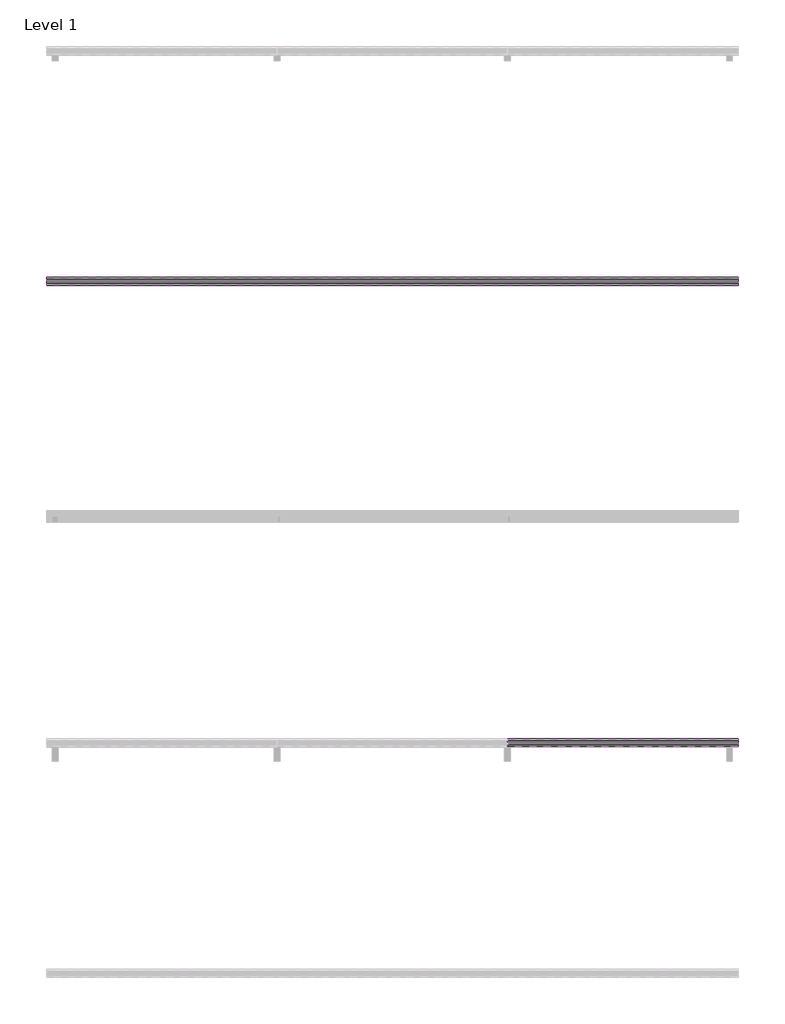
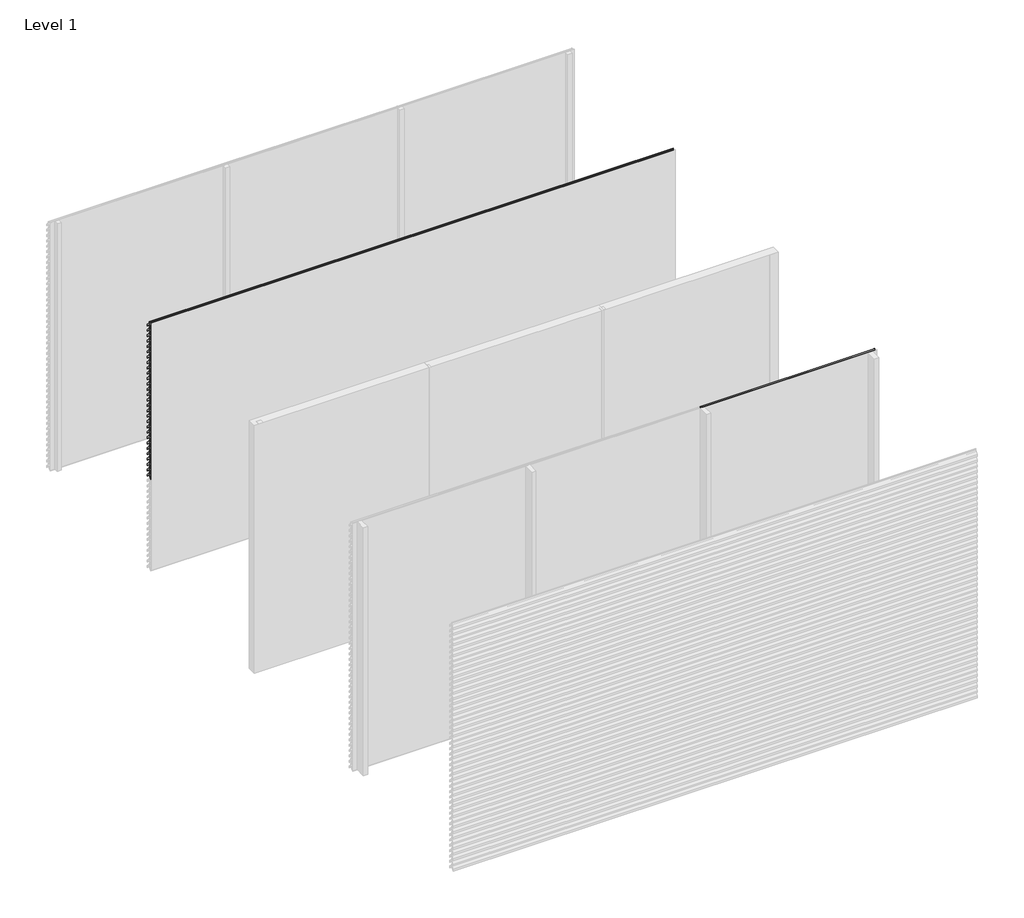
# One storey, part 3 of 9: 84 proxies.
"""IFC4 building model written with IfcOpenShell, lengths in millimetres."""

from ifc_helpers import new_model, si_unit, frame, origin, place, context, project, spatial, polyline, outline, extrude, element, save

model = new_model("IFC4")

# Units and contexts
model_context = context("Model", 3, world=origin())
ifc_project = project(units=[si_unit("LENGTHUNIT", "METRE", prefix="MILLI")], contexts=[model_context])

# Site, building, storey
site = spatial("IfcSite", under=ifc_project)
building = spatial("IfcBuilding", under=site)
storey = spatial("IfcBuildingStorey", under=building, Name="Level 1", Elevation=0.0)

# Proxies
placement = place(None, origin())
element("IfcBuildingElementProxy", 1, Name="Wall Sweeps", at=placement, inside=storey, context=model_context, shape_type="SweptSolid", body=[
    extrude(outline(polyline([(-13926.0, 2942.0), (-13926.0, 2919.0), (-13961.5, 2954.5), (-13997.0, 2919.0), (-13997.0, 2942.0), (-13962.5, 2976.5), (-13962.5, 2990.0), (-13960.5, 2990.0), (-13960.5, 2976.5), (-13926.0, 2942.0)])), frame((0.0, 0.0, 0.0), z_axis=(1.0, 0.0, 0.0), x_axis=(0.0, 1.0, 0.0)), (0.0, 0.0, 1.0), 6000.0),
])
element("IfcBuildingElementProxy", 2, Name="Wall Sweeps", at=placement, inside=storey, context=model_context, shape_type="SweptSolid", body=[
    extrude(outline(polyline([(-13926.0, 2877.0), (-13926.0, 2854.0), (-13961.5, 2889.5), (-13997.0, 2854.0), (-13997.0, 2877.0), (-13962.5, 2911.5), (-13962.5, 2925.0), (-13960.5, 2925.0), (-13960.5, 2911.5), (-13926.0, 2877.0)])), frame((0.0, 0.0, 0.0), z_axis=(1.0, 0.0, 0.0), x_axis=(0.0, 1.0, 0.0)), (0.0, 0.0, 1.0), 6000.0),
])
element("IfcBuildingElementProxy", 3, Name="Wall Sweeps", at=placement, inside=storey, context=model_context, shape_type="SweptSolid", body=[
    extrude(outline(polyline([(-13926.0, 2812.0), (-13926.0, 2789.0), (-13961.5, 2824.5), (-13997.0, 2789.0), (-13997.0, 2812.0), (-13962.5, 2846.5), (-13962.5, 2860.0), (-13960.5, 2860.0), (-13960.5, 2846.5), (-13926.0, 2812.0)])), frame((0.0, 0.0, 0.0), z_axis=(1.0, 0.0, 0.0), x_axis=(0.0, 1.0, 0.0)), (0.0, 0.0, 1.0), 6000.0),
])
element("IfcBuildingElementProxy", 4, Name="Wall Sweeps", at=placement, inside=storey, context=model_context, shape_type="SweptSolid", body=[
    extrude(outline(polyline([(-13926.0, 2747.0), (-13926.0, 2724.0), (-13961.5, 2759.5), (-13997.0, 2724.0), (-13997.0, 2747.0), (-13962.5, 2781.5), (-13962.5, 2795.0), (-13960.5, 2795.0), (-13960.5, 2781.5), (-13926.0, 2747.0)])), frame((0.0, 0.0, 0.0), z_axis=(1.0, 0.0, 0.0), x_axis=(0.0, 1.0, 0.0)), (0.0, 0.0, 1.0), 6000.0),
])
element("IfcBuildingElementProxy", 5, Name="Wall Sweeps", at=placement, inside=storey, context=model_context, shape_type="SweptSolid", body=[
    extrude(outline(polyline([(-13926.0, 2682.0), (-13926.0, 2659.0), (-13961.5, 2694.5), (-13997.0, 2659.0), (-13997.0, 2682.0), (-13962.5, 2716.5), (-13962.5, 2730.0), (-13960.5, 2730.0), (-13960.5, 2716.5), (-13926.0, 2682.0)])), frame((0.0, 0.0, 0.0), z_axis=(1.0, 0.0, 0.0), x_axis=(0.0, 1.0, 0.0)), (0.0, 0.0, 1.0), 6000.0),
])
element("IfcBuildingElementProxy", 6, Name="Wall Sweeps", at=placement, inside=storey, context=model_context, shape_type="SweptSolid", body=[
    extrude(outline(polyline([(-13926.0, 2617.0), (-13926.0, 2594.0), (-13961.5, 2629.5), (-13997.0, 2594.0), (-13997.0, 2617.0), (-13962.5, 2651.5), (-13962.5, 2665.0), (-13960.5, 2665.0), (-13960.5, 2651.5), (-13926.0, 2617.0)])), frame((0.0, 0.0, 0.0), z_axis=(1.0, 0.0, 0.0), x_axis=(0.0, 1.0, 0.0)), (0.0, 0.0, 1.0), 6000.0),
])
element("IfcBuildingElementProxy", 7, Name="Wall Sweeps", at=placement, inside=storey, context=model_context, shape_type="SweptSolid", body=[
    extrude(outline(polyline([(-13926.0, 2552.0), (-13926.0, 2529.0), (-13961.5, 2564.5), (-13997.0, 2529.0), (-13997.0, 2552.0), (-13962.5, 2586.5), (-13962.5, 2600.0), (-13960.5, 2600.0), (-13960.5, 2586.5), (-13926.0, 2552.0)])), frame((0.0, 0.0, 0.0), z_axis=(1.0, 0.0, 0.0), x_axis=(0.0, 1.0, 0.0)), (0.0, 0.0, 1.0), 6000.0),
])
element("IfcBuildingElementProxy", 8, Name="Wall Sweeps", at=placement, inside=storey, context=model_context, shape_type="SweptSolid", body=[
    extrude(outline(polyline([(-13926.0, 2487.0), (-13926.0, 2464.0), (-13961.5, 2499.5), (-13997.0, 2464.0), (-13997.0, 2487.0), (-13962.5, 2521.5), (-13962.5, 2535.0), (-13960.5, 2535.0), (-13960.5, 2521.5), (-13926.0, 2487.0)])), frame((0.0, 0.0, 0.0), z_axis=(1.0, 0.0, 0.0), x_axis=(0.0, 1.0, 0.0)), (0.0, 0.0, 1.0), 6000.0),
])
element("IfcBuildingElementProxy", 9, Name="Wall Sweeps", at=placement, inside=storey, context=model_context, shape_type="SweptSolid", body=[
    extrude(outline(polyline([(-13926.0, 2422.0), (-13926.0, 2399.0), (-13961.5, 2434.5), (-13997.0, 2399.0), (-13997.0, 2422.0), (-13962.5, 2456.5), (-13962.5, 2470.0), (-13960.5, 2470.0), (-13960.5, 2456.5), (-13926.0, 2422.0)])), frame((0.0, 0.0, 0.0), z_axis=(1.0, 0.0, 0.0), x_axis=(0.0, 1.0, 0.0)), (0.0, 0.0, 1.0), 6000.0),
])
element("IfcBuildingElementProxy", 10, Name="Wall Sweeps", at=placement, inside=storey, context=model_context, shape_type="SweptSolid", body=[
    extrude(outline(polyline([(-13926.0, 2357.0), (-13926.0, 2334.0), (-13961.5, 2369.5), (-13997.0, 2334.0), (-13997.0, 2357.0), (-13962.5, 2391.5), (-13962.5, 2405.0), (-13960.5, 2405.0), (-13960.5, 2391.5), (-13926.0, 2357.0)])), frame((0.0, 0.0, 0.0), z_axis=(1.0, 0.0, 0.0), x_axis=(0.0, 1.0, 0.0)), (0.0, 0.0, 1.0), 6000.0),
])
element("IfcBuildingElementProxy", 11, Name="Wall Sweeps", at=placement, inside=storey, context=model_context, shape_type="SweptSolid", body=[
    extrude(outline(polyline([(-13926.0, 2292.0), (-13926.0, 2269.0), (-13961.5, 2304.5), (-13997.0, 2269.0), (-13997.0, 2292.0), (-13962.5, 2326.5), (-13962.5, 2340.0), (-13960.5, 2340.0), (-13960.5, 2326.5), (-13926.0, 2292.0)])), frame((0.0, 0.0, 0.0), z_axis=(1.0, 0.0, 0.0), x_axis=(0.0, 1.0, 0.0)), (0.0, 0.0, 1.0), 6000.0),
])
element("IfcBuildingElementProxy", 12, Name="Wall Sweeps", at=placement, inside=storey, context=model_context, shape_type="SweptSolid", body=[
    extrude(outline(polyline([(-13926.0, 2227.0), (-13926.0, 2204.0), (-13961.5, 2239.5), (-13997.0, 2204.0), (-13997.0, 2227.0), (-13962.5, 2261.5), (-13962.5, 2275.0), (-13960.5, 2275.0), (-13960.5, 2261.5), (-13926.0, 2227.0)])), frame((0.0, 0.0, 0.0), z_axis=(1.0, 0.0, 0.0), x_axis=(0.0, 1.0, 0.0)), (0.0, 0.0, 1.0), 6000.0),
])
element("IfcBuildingElementProxy", 13, Name="Wall Sweeps", at=placement, inside=storey, context=model_context, shape_type="SweptSolid", body=[
    extrude(outline(polyline([(-13926.0, 2162.0), (-13926.0, 2139.0), (-13961.5, 2174.5), (-13997.0, 2139.0), (-13997.0, 2162.0), (-13962.5, 2196.5), (-13962.5, 2210.0), (-13960.5, 2210.0), (-13960.5, 2196.5), (-13926.0, 2162.0)])), frame((0.0, 0.0, 0.0), z_axis=(1.0, 0.0, 0.0), x_axis=(0.0, 1.0, 0.0)), (0.0, 0.0, 1.0), 6000.0),
])
element("IfcBuildingElementProxy", 14, Name="Wall Sweeps", at=placement, inside=storey, context=model_context, shape_type="SweptSolid", body=[
    extrude(outline(polyline([(-13926.0, 2097.0), (-13926.0, 2074.0), (-13961.5, 2109.5), (-13997.0, 2074.0), (-13997.0, 2097.0), (-13962.5, 2131.5), (-13962.5, 2145.0), (-13960.5, 2145.0), (-13960.5, 2131.5), (-13926.0, 2097.0)])), frame((0.0, 0.0, 0.0), z_axis=(1.0, 0.0, 0.0), x_axis=(0.0, 1.0, 0.0)), (0.0, 0.0, 1.0), 6000.0),
])
element("IfcBuildingElementProxy", 15, Name="Wall Sweeps", at=placement, inside=storey, context=model_context, shape_type="SweptSolid", body=[
    extrude(outline(polyline([(-13926.0, 2032.0), (-13926.0, 2009.0), (-13961.5, 2044.5), (-13997.0, 2009.0), (-13997.0, 2032.0), (-13962.5, 2066.5), (-13962.5, 2080.0), (-13960.5, 2080.0), (-13960.5, 2066.5), (-13926.0, 2032.0)])), frame((0.0, 0.0, 0.0), z_axis=(1.0, 0.0, 0.0), x_axis=(0.0, 1.0, 0.0)), (0.0, 0.0, 1.0), 6000.0),
])
element("IfcBuildingElementProxy", 16, Name="Wall Sweeps", at=placement, inside=storey, context=model_context, shape_type="SweptSolid", body=[
    extrude(outline(polyline([(-13926.0, 1967.0), (-13926.0, 1944.0), (-13961.5, 1979.5), (-13997.0, 1944.0), (-13997.0, 1967.0), (-13962.5, 2001.5), (-13962.5, 2015.0), (-13960.5, 2015.0), (-13960.5, 2001.5), (-13926.0, 1967.0)])), frame((0.0, 0.0, 0.0), z_axis=(1.0, 0.0, 0.0), x_axis=(0.0, 1.0, 0.0)), (0.0, 0.0, 1.0), 6000.0),
])
element("IfcBuildingElementProxy", 17, Name="Wall Sweeps", at=placement, inside=storey, context=model_context, shape_type="SweptSolid", body=[
    extrude(outline(polyline([(-13926.0, 1902.0), (-13926.0, 1879.0), (-13961.5, 1914.5), (-13997.0, 1879.0), (-13997.0, 1902.0), (-13962.5, 1936.5), (-13962.5, 1950.0), (-13960.5, 1950.0), (-13960.5, 1936.5), (-13926.0, 1902.0)])), frame((0.0, 0.0, 0.0), z_axis=(1.0, 0.0, 0.0), x_axis=(0.0, 1.0, 0.0)), (0.0, 0.0, 1.0), 6000.0),
])
element("IfcBuildingElementProxy", 18, Name="Wall Sweeps", at=placement, inside=storey, context=model_context, shape_type="SweptSolid", body=[
    extrude(outline(polyline([(-13926.0, 1837.0), (-13926.0, 1814.0), (-13961.5, 1849.5), (-13997.0, 1814.0), (-13997.0, 1837.0), (-13962.5, 1871.5), (-13962.5, 1885.0), (-13960.5, 1885.0), (-13960.5, 1871.5), (-13926.0, 1837.0)])), frame((0.0, 0.0, 0.0), z_axis=(1.0, 0.0, 0.0), x_axis=(0.0, 1.0, 0.0)), (0.0, 0.0, 1.0), 6000.0),
])
element("IfcBuildingElementProxy", 19, Name="Wall Sweeps", at=placement, inside=storey, context=model_context, shape_type="SweptSolid", body=[
    extrude(outline(polyline([(-13926.0, 1772.0), (-13926.0, 1749.0), (-13961.5, 1784.5), (-13997.0, 1749.0), (-13997.0, 1772.0), (-13962.5, 1806.5), (-13962.5, 1820.0), (-13960.5, 1820.0), (-13960.5, 1806.5), (-13926.0, 1772.0)])), frame((0.0, 0.0, 0.0), z_axis=(1.0, 0.0, 0.0), x_axis=(0.0, 1.0, 0.0)), (0.0, 0.0, 1.0), 6000.0),
])
element("IfcBuildingElementProxy", 20, Name="Wall Sweeps", at=placement, inside=storey, context=model_context, shape_type="SweptSolid", body=[
    extrude(outline(polyline([(-13926.0, 1707.0), (-13926.0, 1684.0), (-13961.5, 1719.5), (-13997.0, 1684.0), (-13997.0, 1707.0), (-13962.5, 1741.5), (-13962.5, 1755.0), (-13960.5, 1755.0), (-13960.5, 1741.5), (-13926.0, 1707.0)])), frame((0.0, 0.0, 0.0), z_axis=(1.0, 0.0, 0.0), x_axis=(0.0, 1.0, 0.0)), (0.0, 0.0, 1.0), 6000.0),
])
element("IfcBuildingElementProxy", 21, Name="Wall Sweeps", at=placement, inside=storey, context=model_context, shape_type="SweptSolid", body=[
    extrude(outline(polyline([(-13926.0, 1642.0), (-13926.0, 1619.0), (-13961.5, 1654.5), (-13997.0, 1619.0), (-13997.0, 1642.0), (-13962.5, 1676.5), (-13962.5, 1690.0), (-13960.5, 1690.0), (-13960.5, 1676.5), (-13926.0, 1642.0)])), frame((0.0, 0.0, 0.0), z_axis=(1.0, 0.0, 0.0), x_axis=(0.0, 1.0, 0.0)), (0.0, 0.0, 1.0), 6000.0),
])
element("IfcBuildingElementProxy", 22, Name="Wall Sweeps", at=placement, inside=storey, context=model_context, shape_type="SweptSolid", body=[
    extrude(outline(polyline([(-13926.0, 1577.0), (-13926.0, 1554.0), (-13961.5, 1589.5), (-13997.0, 1554.0), (-13997.0, 1577.0), (-13962.5, 1611.5), (-13962.5, 1625.0), (-13960.5, 1625.0), (-13960.5, 1611.5), (-13926.0, 1577.0)])), frame((0.0, 0.0, 0.0), z_axis=(1.0, 0.0, 0.0), x_axis=(0.0, 1.0, 0.0)), (0.0, 0.0, 1.0), 6000.0),
])
element("IfcBuildingElementProxy", 23, Name="Wall Sweeps", at=placement, inside=storey, context=model_context, shape_type="SweptSolid", body=[
    extrude(outline(polyline([(-13926.0, 1512.0), (-13926.0, 1489.0), (-13961.5, 1524.5), (-13997.0, 1489.0), (-13997.0, 1512.0), (-13962.5, 1546.5), (-13962.5, 1560.0), (-13960.5, 1560.0), (-13960.5, 1546.5), (-13926.0, 1512.0)])), frame((0.0, 0.0, 0.0), z_axis=(1.0, 0.0, 0.0), x_axis=(0.0, 1.0, 0.0)), (0.0, 0.0, 1.0), 6000.0),
])
element("IfcBuildingElementProxy", 24, Name="Wall Sweeps", at=placement, inside=storey, context=model_context, shape_type="SweptSolid", body=[
    extrude(outline(polyline([(-13926.0, 1447.0), (-13926.0, 1424.0), (-13961.5, 1459.5), (-13997.0, 1424.0), (-13997.0, 1447.0), (-13962.5, 1481.5), (-13962.5, 1495.0), (-13960.5, 1495.0), (-13960.5, 1481.5), (-13926.0, 1447.0)])), frame((0.0, 0.0, 0.0), z_axis=(1.0, 0.0, 0.0), x_axis=(0.0, 1.0, 0.0)), (0.0, 0.0, 1.0), 6000.0),
])
element("IfcBuildingElementProxy", 25, Name="Wall Sweeps", at=placement, inside=storey, context=model_context, shape_type="SweptSolid", body=[
    extrude(outline(polyline([(-13926.0, 1382.0), (-13926.0, 1359.0), (-13961.5, 1394.5), (-13997.0, 1359.0), (-13997.0, 1382.0), (-13962.5, 1416.5), (-13962.5, 1430.0), (-13960.5, 1430.0), (-13960.5, 1416.5), (-13926.0, 1382.0)])), frame((0.0, 0.0, 0.0), z_axis=(1.0, 0.0, 0.0), x_axis=(0.0, 1.0, 0.0)), (0.0, 0.0, 1.0), 6000.0),
])
element("IfcBuildingElementProxy", 26, Name="Wall Sweeps", at=placement, inside=storey, context=model_context, shape_type="SweptSolid", body=[
    extrude(outline(polyline([(-13926.0, 1317.0), (-13926.0, 1294.0), (-13961.5, 1329.5), (-13997.0, 1294.0), (-13997.0, 1317.0), (-13962.5, 1351.5), (-13962.5, 1365.0), (-13960.5, 1365.0), (-13960.5, 1351.5), (-13926.0, 1317.0)])), frame((0.0, 0.0, 0.0), z_axis=(1.0, 0.0, 0.0), x_axis=(0.0, 1.0, 0.0)), (0.0, 0.0, 1.0), 6000.0),
])
element("IfcBuildingElementProxy", 27, Name="Wall Sweeps", at=placement, inside=storey, context=model_context, shape_type="SweptSolid", body=[
    extrude(outline(polyline([(-13926.0, 1252.0), (-13926.0, 1229.0), (-13961.5, 1264.5), (-13997.0, 1229.0), (-13997.0, 1252.0), (-13962.5, 1286.5), (-13962.5, 1300.0), (-13960.5, 1300.0), (-13960.5, 1286.5), (-13926.0, 1252.0)])), frame((0.0, 0.0, 0.0), z_axis=(1.0, 0.0, 0.0), x_axis=(0.0, 1.0, 0.0)), (0.0, 0.0, 1.0), 6000.0),
])
element("IfcBuildingElementProxy", 28, Name="Wall Sweeps", at=placement, inside=storey, context=model_context, shape_type="SweptSolid", body=[
    extrude(outline(polyline([(-13926.0, 1187.0), (-13926.0, 1164.0), (-13961.5, 1199.5), (-13997.0, 1164.0), (-13997.0, 1187.0), (-13962.5, 1221.5), (-13962.5, 1235.0), (-13960.5, 1235.0), (-13960.5, 1221.5), (-13926.0, 1187.0)])), frame((0.0, 0.0, 0.0), z_axis=(1.0, 0.0, 0.0), x_axis=(0.0, 1.0, 0.0)), (0.0, 0.0, 1.0), 6000.0),
])
element("IfcBuildingElementProxy", 29, Name="Wall Sweeps", at=placement, inside=storey, context=model_context, shape_type="SweptSolid", body=[
    extrude(outline(polyline([(-13926.0, 1122.0), (-13926.0, 1099.0), (-13961.5, 1134.5), (-13997.0, 1099.0), (-13997.0, 1122.0), (-13962.5, 1156.5), (-13962.5, 1170.0), (-13960.5, 1170.0), (-13960.5, 1156.5), (-13926.0, 1122.0)])), frame((0.0, 0.0, 0.0), z_axis=(1.0, 0.0, 0.0), x_axis=(0.0, 1.0, 0.0)), (0.0, 0.0, 1.0), 6000.0),
])
element("IfcBuildingElementProxy", 30, Name="Wall Sweeps", at=placement, inside=storey, context=model_context, shape_type="SweptSolid", body=[
    extrude(outline(polyline([(-17926.0, 2942.0), (-17926.0, 2919.0), (-17961.5, 2954.5), (-17997.0, 2919.0), (-17997.0, 2942.0), (-17962.5, 2976.5), (-17962.5, 2990.0), (-17960.5, 2990.0), (-17960.5, 2976.5), (-17926.0, 2942.0)])), frame((3999.9999999, 0.0, 0.0), z_axis=(1.0, 0.0, 0.0), x_axis=(0.0, 1.0, 0.0)), (0.0, 0.0, 1.0), 2000.0000001),
])
element("IfcBuildingElementProxy", 31, Name="Wall Sweeps", at=placement, inside=storey, context=model_context, shape_type="SweptSolid", body=[
    extrude(outline(polyline([(-17926.0, 2877.0), (-17926.0, 2854.0), (-17961.5, 2889.5), (-17997.0, 2854.0), (-17997.0, 2877.0), (-17962.5, 2911.5), (-17962.5, 2925.0), (-17960.5, 2925.0), (-17960.5, 2911.5), (-17926.0, 2877.0)])), frame((3999.9999999, 0.0, 0.0), z_axis=(1.0, 0.0, 0.0), x_axis=(0.0, 1.0, 0.0)), (0.0, 0.0, 1.0), 2000.0000001),
])
element("IfcBuildingElementProxy", 32, Name="Wall Sweeps", at=placement, inside=storey, context=model_context, shape_type="SweptSolid", body=[
    extrude(outline(polyline([(-17926.0, 2812.0), (-17926.0, 2789.0), (-17961.5, 2824.5), (-17997.0, 2789.0), (-17997.0, 2812.0), (-17962.5, 2846.5), (-17962.5, 2860.0), (-17960.5, 2860.0), (-17960.5, 2846.5), (-17926.0, 2812.0)])), frame((3999.9999999, 0.0, 0.0), z_axis=(1.0, 0.0, 0.0), x_axis=(0.0, 1.0, 0.0)), (0.0, 0.0, 1.0), 2000.0000001),
])
element("IfcBuildingElementProxy", 33, Name="Wall Sweeps", at=placement, inside=storey, context=model_context, shape_type="SweptSolid", body=[
    extrude(outline(polyline([(-17926.0, 2747.0), (-17926.0, 2724.0), (-17961.5, 2759.5), (-17997.0, 2724.0), (-17997.0, 2747.0), (-17962.5, 2781.5), (-17962.5, 2795.0), (-17960.5, 2795.0), (-17960.5, 2781.5), (-17926.0, 2747.0)])), frame((3999.9999999, 0.0, 0.0), z_axis=(1.0, 0.0, 0.0), x_axis=(0.0, 1.0, 0.0)), (0.0, 0.0, 1.0), 2000.0000001),
])
element("IfcBuildingElementProxy", 34, Name="Wall Sweeps", at=placement, inside=storey, context=model_context, shape_type="SweptSolid", body=[
    extrude(outline(polyline([(-17926.0, 2682.0), (-17926.0, 2659.0), (-17961.5, 2694.5), (-17997.0, 2659.0), (-17997.0, 2682.0), (-17962.5, 2716.5), (-17962.5, 2730.0), (-17960.5, 2730.0), (-17960.5, 2716.5), (-17926.0, 2682.0)])), frame((3999.9999999, 0.0, 0.0), z_axis=(1.0, 0.0, 0.0), x_axis=(0.0, 1.0, 0.0)), (0.0, 0.0, 1.0), 2000.0000001),
])
element("IfcBuildingElementProxy", 35, Name="Wall Sweeps", at=placement, inside=storey, context=model_context, shape_type="SweptSolid", body=[
    extrude(outline(polyline([(-17926.0, 2617.0), (-17926.0, 2594.0), (-17961.5, 2629.5), (-17997.0, 2594.0), (-17997.0, 2617.0), (-17962.5, 2651.5), (-17962.5, 2665.0), (-17960.5, 2665.0), (-17960.5, 2651.5), (-17926.0, 2617.0)])), frame((3999.9999999, 0.0, 0.0), z_axis=(1.0, 0.0, 0.0), x_axis=(0.0, 1.0, 0.0)), (0.0, 0.0, 1.0), 2000.0000001),
])
element("IfcBuildingElementProxy", 36, Name="Wall Sweeps", at=placement, inside=storey, context=model_context, shape_type="SweptSolid", body=[
    extrude(outline(polyline([(-17926.0, 2552.0), (-17926.0, 2529.0), (-17961.5, 2564.5), (-17997.0, 2529.0), (-17997.0, 2552.0), (-17962.5, 2586.5), (-17962.5, 2600.0), (-17960.5, 2600.0), (-17960.5, 2586.5), (-17926.0, 2552.0)])), frame((3999.9999999, 0.0, 0.0), z_axis=(1.0, 0.0, 0.0), x_axis=(0.0, 1.0, 0.0)), (0.0, 0.0, 1.0), 2000.0000001),
])
element("IfcBuildingElementProxy", 37, Name="Wall Sweeps", at=placement, inside=storey, context=model_context, shape_type="SweptSolid", body=[
    extrude(outline(polyline([(-17926.0, 2487.0), (-17926.0, 2464.0), (-17961.5, 2499.5), (-17997.0, 2464.0), (-17997.0, 2487.0), (-17962.5, 2521.5), (-17962.5, 2535.0), (-17960.5, 2535.0), (-17960.5, 2521.5), (-17926.0, 2487.0)])), frame((3999.9999999, 0.0, 0.0), z_axis=(1.0, 0.0, 0.0), x_axis=(0.0, 1.0, 0.0)), (0.0, 0.0, 1.0), 2000.0000001),
])
element("IfcBuildingElementProxy", 38, Name="Wall Sweeps", at=placement, inside=storey, context=model_context, shape_type="SweptSolid", body=[
    extrude(outline(polyline([(-17926.0, 2422.0), (-17926.0, 2399.0), (-17961.5, 2434.5), (-17997.0, 2399.0), (-17997.0, 2422.0), (-17962.5, 2456.5), (-17962.5, 2470.0), (-17960.5, 2470.0), (-17960.5, 2456.5), (-17926.0, 2422.0)])), frame((3999.9999999, 0.0, 0.0), z_axis=(1.0, 0.0, 0.0), x_axis=(0.0, 1.0, 0.0)), (0.0, 0.0, 1.0), 2000.0000001),
])
element("IfcBuildingElementProxy", 39, Name="Wall Sweeps", at=placement, inside=storey, context=model_context, shape_type="SweptSolid", body=[
    extrude(outline(polyline([(-17926.0, 2357.0), (-17926.0, 2334.0), (-17961.5, 2369.5), (-17997.0, 2334.0), (-17997.0, 2357.0), (-17962.5, 2391.5), (-17962.5, 2405.0), (-17960.5, 2405.0), (-17960.5, 2391.5), (-17926.0, 2357.0)])), frame((3999.9999999, 0.0, 0.0), z_axis=(1.0, 0.0, 0.0), x_axis=(0.0, 1.0, 0.0)), (0.0, 0.0, 1.0), 2000.0000001),
])
element("IfcBuildingElementProxy", 40, Name="Wall Sweeps", at=placement, inside=storey, context=model_context, shape_type="SweptSolid", body=[
    extrude(outline(polyline([(-17926.0, 2292.0), (-17926.0, 2269.0), (-17961.5, 2304.5), (-17997.0, 2269.0), (-17997.0, 2292.0), (-17962.5, 2326.5), (-17962.5, 2340.0), (-17960.5, 2340.0), (-17960.5, 2326.5), (-17926.0, 2292.0)])), frame((3999.9999999, 0.0, 0.0), z_axis=(1.0, 0.0, 0.0), x_axis=(0.0, 1.0, 0.0)), (0.0, 0.0, 1.0), 2000.0000001),
])
element("IfcBuildingElementProxy", 41, Name="Wall Sweeps", at=placement, inside=storey, context=model_context, shape_type="SweptSolid", body=[
    extrude(outline(polyline([(-17926.0, 2227.0), (-17926.0, 2204.0), (-17961.5, 2239.5), (-17997.0, 2204.0), (-17997.0, 2227.0), (-17962.5, 2261.5), (-17962.5, 2275.0), (-17960.5, 2275.0), (-17960.5, 2261.5), (-17926.0, 2227.0)])), frame((3999.9999999, 0.0, 0.0), z_axis=(1.0, 0.0, 0.0), x_axis=(0.0, 1.0, 0.0)), (0.0, 0.0, 1.0), 2000.0000001),
])
element("IfcBuildingElementProxy", 42, Name="Wall Sweeps", at=placement, inside=storey, context=model_context, shape_type="SweptSolid", body=[
    extrude(outline(polyline([(-17926.0, 2162.0), (-17926.0, 2139.0), (-17961.5, 2174.5), (-17997.0, 2139.0), (-17997.0, 2162.0), (-17962.5, 2196.5), (-17962.5, 2210.0), (-17960.5, 2210.0), (-17960.5, 2196.5), (-17926.0, 2162.0)])), frame((3999.9999999, 0.0, 0.0), z_axis=(1.0, 0.0, 0.0), x_axis=(0.0, 1.0, 0.0)), (0.0, 0.0, 1.0), 2000.0000001),
])
element("IfcBuildingElementProxy", 43, Name="Wall Sweeps", at=placement, inside=storey, context=model_context, shape_type="SweptSolid", body=[
    extrude(outline(polyline([(-17926.0, 2097.0), (-17926.0, 2074.0), (-17961.5, 2109.5), (-17997.0, 2074.0), (-17997.0, 2097.0), (-17962.5, 2131.5), (-17962.5, 2145.0), (-17960.5, 2145.0), (-17960.5, 2131.5), (-17926.0, 2097.0)])), frame((3999.9999999, 0.0, 0.0), z_axis=(1.0, 0.0, 0.0), x_axis=(0.0, 1.0, 0.0)), (0.0, 0.0, 1.0), 2000.0000001),
])
element("IfcBuildingElementProxy", 44, Name="Wall Sweeps", at=placement, inside=storey, context=model_context, shape_type="SweptSolid", body=[
    extrude(outline(polyline([(-17926.0, 2032.0), (-17926.0, 2009.0), (-17961.5, 2044.5), (-17997.0, 2009.0), (-17997.0, 2032.0), (-17962.5, 2066.5), (-17962.5, 2080.0), (-17960.5, 2080.0), (-17960.5, 2066.5), (-17926.0, 2032.0)])), frame((3999.9999999, 0.0, 0.0), z_axis=(1.0, 0.0, 0.0), x_axis=(0.0, 1.0, 0.0)), (0.0, 0.0, 1.0), 2000.0000001),
])
element("IfcBuildingElementProxy", 45, Name="Wall Sweeps", at=placement, inside=storey, context=model_context, shape_type="SweptSolid", body=[
    extrude(outline(polyline([(-17926.0, 1967.0), (-17926.0, 1944.0), (-17961.5, 1979.5), (-17997.0, 1944.0), (-17997.0, 1967.0), (-17962.5, 2001.5), (-17962.5, 2015.0), (-17960.5, 2015.0), (-17960.5, 2001.5), (-17926.0, 1967.0)])), frame((3999.9999999, 0.0, 0.0), z_axis=(1.0, 0.0, 0.0), x_axis=(0.0, 1.0, 0.0)), (0.0, 0.0, 1.0), 2000.0000001),
])
element("IfcBuildingElementProxy", 46, Name="Wall Sweeps", at=placement, inside=storey, context=model_context, shape_type="SweptSolid", body=[
    extrude(outline(polyline([(-17926.0, 1902.0), (-17926.0, 1879.0), (-17961.5, 1914.5), (-17997.0, 1879.0), (-17997.0, 1902.0), (-17962.5, 1936.5), (-17962.5, 1950.0), (-17960.5, 1950.0), (-17960.5, 1936.5), (-17926.0, 1902.0)])), frame((3999.9999999, 0.0, 0.0), z_axis=(1.0, 0.0, 0.0), x_axis=(0.0, 1.0, 0.0)), (0.0, 0.0, 1.0), 2000.0000001),
])
element("IfcBuildingElementProxy", 47, Name="Wall Sweeps", at=placement, inside=storey, context=model_context, shape_type="SweptSolid", body=[
    extrude(outline(polyline([(-17926.0, 1837.0), (-17926.0, 1814.0), (-17961.5, 1849.5), (-17997.0, 1814.0), (-17997.0, 1837.0), (-17962.5, 1871.5), (-17962.5, 1885.0), (-17960.5, 1885.0), (-17960.5, 1871.5), (-17926.0, 1837.0)])), frame((3999.9999999, 0.0, 0.0), z_axis=(1.0, 0.0, 0.0), x_axis=(0.0, 1.0, 0.0)), (0.0, 0.0, 1.0), 2000.0000001),
])
element("IfcBuildingElementProxy", 48, Name="Wall Sweeps", at=placement, inside=storey, context=model_context, shape_type="SweptSolid", body=[
    extrude(outline(polyline([(-17926.0, 1772.0), (-17926.0, 1749.0), (-17961.5, 1784.5), (-17997.0, 1749.0), (-17997.0, 1772.0), (-17962.5, 1806.5), (-17962.5, 1820.0), (-17960.5, 1820.0), (-17960.5, 1806.5), (-17926.0, 1772.0)])), frame((3999.9999999, 0.0, 0.0), z_axis=(1.0, 0.0, 0.0), x_axis=(0.0, 1.0, 0.0)), (0.0, 0.0, 1.0), 2000.0000001),
])
element("IfcBuildingElementProxy", 49, Name="Wall Sweeps", at=placement, inside=storey, context=model_context, shape_type="SweptSolid", body=[
    extrude(outline(polyline([(-17926.0, 1707.0), (-17926.0, 1684.0), (-17961.5, 1719.5), (-17997.0, 1684.0), (-17997.0, 1707.0), (-17962.5, 1741.5), (-17962.5, 1755.0), (-17960.5, 1755.0), (-17960.5, 1741.5), (-17926.0, 1707.0)])), frame((3999.9999999, 0.0, 0.0), z_axis=(1.0, 0.0, 0.0), x_axis=(0.0, 1.0, 0.0)), (0.0, 0.0, 1.0), 2000.0000001),
])
element("IfcBuildingElementProxy", 50, Name="Wall Sweeps", at=placement, inside=storey, context=model_context, shape_type="SweptSolid", body=[
    extrude(outline(polyline([(-17926.0, 1642.0), (-17926.0, 1619.0), (-17961.5, 1654.5), (-17997.0, 1619.0), (-17997.0, 1642.0), (-17962.5, 1676.5), (-17962.5, 1690.0), (-17960.5, 1690.0), (-17960.5, 1676.5), (-17926.0, 1642.0)])), frame((3999.9999999, 0.0, 0.0), z_axis=(1.0, 0.0, 0.0), x_axis=(0.0, 1.0, 0.0)), (0.0, 0.0, 1.0), 2000.0000001),
])
element("IfcBuildingElementProxy", 51, Name="Wall Sweeps", at=placement, inside=storey, context=model_context, shape_type="SweptSolid", body=[
    extrude(outline(polyline([(-17926.0, 1577.0), (-17926.0, 1554.0), (-17961.5, 1589.5), (-17997.0, 1554.0), (-17997.0, 1577.0), (-17962.5, 1611.5), (-17962.5, 1625.0), (-17960.5, 1625.0), (-17960.5, 1611.5), (-17926.0, 1577.0)])), frame((3999.9999999, 0.0, 0.0), z_axis=(1.0, 0.0, 0.0), x_axis=(0.0, 1.0, 0.0)), (0.0, 0.0, 1.0), 2000.0000001),
])
element("IfcBuildingElementProxy", 52, Name="Wall Sweeps", at=placement, inside=storey, context=model_context, shape_type="SweptSolid", body=[
    extrude(outline(polyline([(-17926.0, 1512.0), (-17926.0, 1489.0), (-17961.5, 1524.5), (-17997.0, 1489.0), (-17997.0, 1512.0), (-17962.5, 1546.5), (-17962.5, 1560.0), (-17960.5, 1560.0), (-17960.5, 1546.5), (-17926.0, 1512.0)])), frame((3999.9999999, 0.0, 0.0), z_axis=(1.0, 0.0, 0.0), x_axis=(0.0, 1.0, 0.0)), (0.0, 0.0, 1.0), 2000.0000001),
])
element("IfcBuildingElementProxy", 53, Name="Wall Sweeps", at=placement, inside=storey, context=model_context, shape_type="SweptSolid", body=[
    extrude(outline(polyline([(-17926.0, 1447.0), (-17926.0, 1424.0), (-17961.5, 1459.5), (-17997.0, 1424.0), (-17997.0, 1447.0), (-17962.5, 1481.5), (-17962.5, 1495.0), (-17960.5, 1495.0), (-17960.5, 1481.5), (-17926.0, 1447.0)])), frame((3999.9999999, 0.0, 0.0), z_axis=(1.0, 0.0, 0.0), x_axis=(0.0, 1.0, 0.0)), (0.0, 0.0, 1.0), 2000.0000001),
])
element("IfcBuildingElementProxy", 54, Name="Wall Sweeps", at=placement, inside=storey, context=model_context, shape_type="SweptSolid", body=[
    extrude(outline(polyline([(-17926.0, 1382.0), (-17926.0, 1359.0), (-17961.5, 1394.5), (-17997.0, 1359.0), (-17997.0, 1382.0), (-17962.5, 1416.5), (-17962.5, 1430.0), (-17960.5, 1430.0), (-17960.5, 1416.5), (-17926.0, 1382.0)])), frame((3999.9999999, 0.0, 0.0), z_axis=(1.0, 0.0, 0.0), x_axis=(0.0, 1.0, 0.0)), (0.0, 0.0, 1.0), 2000.0000001),
])
element("IfcBuildingElementProxy", 55, Name="Wall Sweeps", at=placement, inside=storey, context=model_context, shape_type="SweptSolid", body=[
    extrude(outline(polyline([(-17926.0, 1317.0), (-17926.0, 1294.0), (-17961.5, 1329.5), (-17997.0, 1294.0), (-17997.0, 1317.0), (-17962.5, 1351.5), (-17962.5, 1365.0), (-17960.5, 1365.0), (-17960.5, 1351.5), (-17926.0, 1317.0)])), frame((3999.9999999, 0.0, 0.0), z_axis=(1.0, 0.0, 0.0), x_axis=(0.0, 1.0, 0.0)), (0.0, 0.0, 1.0), 2000.0000001),
])
element("IfcBuildingElementProxy", 56, Name="Wall Sweeps", at=placement, inside=storey, context=model_context, shape_type="SweptSolid", body=[
    extrude(outline(polyline([(-17926.0, 1252.0), (-17926.0, 1229.0), (-17961.5, 1264.5), (-17997.0, 1229.0), (-17997.0, 1252.0), (-17962.5, 1286.5), (-17962.5, 1300.0), (-17960.5, 1300.0), (-17960.5, 1286.5), (-17926.0, 1252.0)])), frame((3999.9999999, 0.0, 0.0), z_axis=(1.0, 0.0, 0.0), x_axis=(0.0, 1.0, 0.0)), (0.0, 0.0, 1.0), 2000.0000001),
])
element("IfcBuildingElementProxy", 57, Name="Wall Sweeps", at=placement, inside=storey, context=model_context, shape_type="SweptSolid", body=[
    extrude(outline(polyline([(-17926.0, 1187.0), (-17926.0, 1164.0), (-17961.5, 1199.5), (-17997.0, 1164.0), (-17997.0, 1187.0), (-17962.5, 1221.5), (-17962.5, 1235.0), (-17960.5, 1235.0), (-17960.5, 1221.5), (-17926.0, 1187.0)])), frame((3999.9999999, 0.0, 0.0), z_axis=(1.0, 0.0, 0.0), x_axis=(0.0, 1.0, 0.0)), (0.0, 0.0, 1.0), 2000.0000001),
])
element("IfcBuildingElementProxy", 58, Name="Wall Sweeps", at=placement, inside=storey, context=model_context, shape_type="SweptSolid", body=[
    extrude(outline(polyline([(-17926.0, 1122.0), (-17926.0, 1099.0), (-17961.5, 1134.5), (-17997.0, 1099.0), (-17997.0, 1122.0), (-17962.5, 1156.5), (-17962.5, 1170.0), (-17960.5, 1170.0), (-17960.5, 1156.5), (-17926.0, 1122.0)])), frame((3999.9999999, 0.0, 0.0), z_axis=(1.0, 0.0, 0.0), x_axis=(0.0, 1.0, 0.0)), (0.0, 0.0, 1.0), 2000.0000001),
])
element("IfcBuildingElementProxy", 59, Name="Wall Sweeps", at=placement, inside=storey, context=model_context, shape_type="SweptSolid", body=[
    extrude(outline(polyline([(-17926.0, 1057.0), (-17926.0, 1034.0), (-17961.5, 1069.5), (-17997.0, 1034.0), (-17997.0, 1057.0), (-17962.5, 1091.5), (-17962.5, 1105.0), (-17960.5, 1105.0), (-17960.5, 1091.5), (-17926.0, 1057.0)])), frame((3999.9999999, 0.0, 0.0), z_axis=(1.0, 0.0, 0.0), x_axis=(0.0, 1.0, 0.0)), (0.0, 0.0, 1.0), 2000.0000001),
])
element("IfcBuildingElementProxy", 60, Name="Wall Sweeps", at=placement, inside=storey, context=model_context, shape_type="SweptSolid", body=[
    extrude(outline(polyline([(-17926.0, 992.0), (-17926.0, 969.0), (-17961.5, 1004.5), (-17997.0, 969.0), (-17997.0, 992.0), (-17962.5, 1026.5), (-17962.5, 1040.0), (-17960.5, 1040.0), (-17960.5, 1026.5), (-17926.0, 992.0)])), frame((3999.9999999, 0.0, 0.0), z_axis=(1.0, 0.0, 0.0), x_axis=(0.0, 1.0, 0.0)), (0.0, 0.0, 1.0), 2000.0000001),
])
element("IfcBuildingElementProxy", 61, Name="Wall Sweeps", at=placement, inside=storey, context=model_context, shape_type="SweptSolid", body=[
    extrude(outline(polyline([(-17926.0, 927.0), (-17926.0, 904.0), (-17961.5, 939.5), (-17997.0, 904.0), (-17997.0, 927.0), (-17962.5, 961.5), (-17962.5, 975.0), (-17960.5, 975.0), (-17960.5, 961.5), (-17926.0, 927.0)])), frame((3999.9999999, 0.0, 0.0), z_axis=(1.0, 0.0, 0.0), x_axis=(0.0, 1.0, 0.0)), (0.0, 0.0, 1.0), 2000.0000001),
])
element("IfcBuildingElementProxy", 62, Name="Wall Sweeps", at=placement, inside=storey, context=model_context, shape_type="SweptSolid", body=[
    extrude(outline(polyline([(-17926.0, 862.0), (-17926.0, 839.0), (-17961.5, 874.5), (-17997.0, 839.0), (-17997.0, 862.0), (-17962.5, 896.5), (-17962.5, 910.0), (-17960.5, 910.0), (-17960.5, 896.5), (-17926.0, 862.0)])), frame((3999.9999999, 0.0, 0.0), z_axis=(1.0, 0.0, 0.0), x_axis=(0.0, 1.0, 0.0)), (0.0, 0.0, 1.0), 2000.0000001),
])
element("IfcBuildingElementProxy", 63, Name="Wall Sweeps", at=placement, inside=storey, context=model_context, shape_type="SweptSolid", body=[
    extrude(outline(polyline([(-17926.0, 797.0), (-17926.0, 774.0), (-17961.5, 809.5), (-17997.0, 774.0), (-17997.0, 797.0), (-17962.5, 831.5), (-17962.5, 845.0), (-17960.5, 845.0), (-17960.5, 831.5), (-17926.0, 797.0)])), frame((3999.9999999, 0.0, 0.0), z_axis=(1.0, 0.0, 0.0), x_axis=(0.0, 1.0, 0.0)), (0.0, 0.0, 1.0), 2000.0000001),
])
element("IfcBuildingElementProxy", 64, Name="Wall Sweeps", at=placement, inside=storey, context=model_context, shape_type="SweptSolid", body=[
    extrude(outline(polyline([(-17926.0, 732.0), (-17926.0, 709.0), (-17961.5, 744.5), (-17997.0, 709.0), (-17997.0, 732.0), (-17962.5, 766.5), (-17962.5, 780.0), (-17960.5, 780.0), (-17960.5, 766.5), (-17926.0, 732.0)])), frame((3999.9999999, 0.0, 0.0), z_axis=(1.0, 0.0, 0.0), x_axis=(0.0, 1.0, 0.0)), (0.0, 0.0, 1.0), 2000.0000001),
])
element("IfcBuildingElementProxy", 65, Name="Wall Sweeps", at=placement, inside=storey, context=model_context, shape_type="SweptSolid", body=[
    extrude(outline(polyline([(-17926.0, 667.0), (-17926.0, 644.0), (-17961.5, 679.5), (-17997.0, 644.0), (-17997.0, 667.0), (-17962.5, 701.5), (-17962.5, 715.0), (-17960.5, 715.0), (-17960.5, 701.5), (-17926.0, 667.0)])), frame((3999.9999999, 0.0, 0.0), z_axis=(1.0, 0.0, 0.0), x_axis=(0.0, 1.0, 0.0)), (0.0, 0.0, 1.0), 2000.0000001),
])
element("IfcBuildingElementProxy", 66, Name="Wall Sweeps", at=placement, inside=storey, context=model_context, shape_type="SweptSolid", body=[
    extrude(outline(polyline([(-17926.0, 602.0), (-17926.0, 579.0), (-17961.5, 614.5), (-17997.0, 579.0), (-17997.0, 602.0), (-17962.5, 636.5), (-17962.5, 650.0), (-17960.5, 650.0), (-17960.5, 636.5), (-17926.0, 602.0)])), frame((3999.9999999, 0.0, 0.0), z_axis=(1.0, 0.0, 0.0), x_axis=(0.0, 1.0, 0.0)), (0.0, 0.0, 1.0), 2000.0000001),
])
element("IfcBuildingElementProxy", 67, Name="Wall Sweeps", at=placement, inside=storey, context=model_context, shape_type="SweptSolid", body=[
    extrude(outline(polyline([(-17926.0, 537.0), (-17926.0, 514.0), (-17961.5, 549.5), (-17997.0, 514.0), (-17997.0, 537.0), (-17962.5, 571.5), (-17962.5, 585.0), (-17960.5, 585.0), (-17960.5, 571.5), (-17926.0, 537.0)])), frame((3999.9999999, 0.0, 0.0), z_axis=(1.0, 0.0, 0.0), x_axis=(0.0, 1.0, 0.0)), (0.0, 0.0, 1.0), 2000.0000001),
])
element("IfcBuildingElementProxy", 68, Name="Wall Sweeps", at=placement, inside=storey, context=model_context, shape_type="SweptSolid", body=[
    extrude(outline(polyline([(-17926.0, 472.0), (-17926.0, 449.0), (-17961.5, 484.5), (-17997.0, 449.0), (-17997.0, 472.0), (-17962.5, 506.5), (-17962.5, 520.0), (-17960.5, 520.0), (-17960.5, 506.5), (-17926.0, 472.0)])), frame((3999.9999999, 0.0, 0.0), z_axis=(1.0, 0.0, 0.0), x_axis=(0.0, 1.0, 0.0)), (0.0, 0.0, 1.0), 2000.0000001),
])
element("IfcBuildingElementProxy", 69, Name="Wall Sweeps", at=placement, inside=storey, context=model_context, shape_type="SweptSolid", body=[
    extrude(outline(polyline([(-17926.0, 407.0), (-17926.0, 384.0), (-17961.5, 419.5), (-17997.0, 384.0), (-17997.0, 407.0), (-17962.5, 441.5), (-17962.5, 455.0), (-17960.5, 455.0), (-17960.5, 441.5), (-17926.0, 407.0)])), frame((3999.9999999, 0.0, 0.0), z_axis=(1.0, 0.0, 0.0), x_axis=(0.0, 1.0, 0.0)), (0.0, 0.0, 1.0), 2000.0000001),
])
element("IfcBuildingElementProxy", 70, Name="Wall Sweeps", at=placement, inside=storey, context=model_context, shape_type="SweptSolid", body=[
    extrude(outline(polyline([(-17926.0, 342.0), (-17926.0, 319.0), (-17961.5, 354.5), (-17997.0, 319.0), (-17997.0, 342.0), (-17962.5, 376.5), (-17962.5, 390.0), (-17960.5, 390.0), (-17960.5, 376.5), (-17926.0, 342.0)])), frame((3999.9999999, 0.0, 0.0), z_axis=(1.0, 0.0, 0.0), x_axis=(0.0, 1.0, 0.0)), (0.0, 0.0, 1.0), 2000.0000001),
])
element("IfcBuildingElementProxy", 71, Name="Wall Sweeps", at=placement, inside=storey, context=model_context, shape_type="SweptSolid", body=[
    extrude(outline(polyline([(-17926.0, 277.0), (-17926.0, 254.0), (-17961.5, 289.5), (-17997.0, 254.0), (-17997.0, 277.0), (-17962.5, 311.5), (-17962.5, 325.0), (-17960.5, 325.0), (-17960.5, 311.5), (-17926.0, 277.0)])), frame((3999.9999999, 0.0, 0.0), z_axis=(1.0, 0.0, 0.0), x_axis=(0.0, 1.0, 0.0)), (0.0, 0.0, 1.0), 2000.0000001),
])
element("IfcBuildingElementProxy", 72, Name="Wall Sweeps", at=placement, inside=storey, context=model_context, shape_type="SweptSolid", body=[
    extrude(outline(polyline([(-17926.0, 212.0), (-17926.0, 189.0), (-17961.5, 224.5), (-17997.0, 189.0), (-17997.0, 212.0), (-17962.5, 246.5), (-17962.5, 260.0), (-17960.5, 260.0), (-17960.5, 246.5), (-17926.0, 212.0)])), frame((3999.9999999, 0.0, 0.0), z_axis=(1.0, 0.0, 0.0), x_axis=(0.0, 1.0, 0.0)), (0.0, 0.0, 1.0), 2000.0000001),
])
element("IfcBuildingElementProxy", 73, Name="Wall Sweeps", at=placement, inside=storey, context=model_context, shape_type="SweptSolid", body=[
    extrude(outline(polyline([(-17926.0, 147.0), (-17926.0, 124.0), (-17961.5, 159.5), (-17997.0, 124.0), (-17997.0, 147.0), (-17962.5, 181.5), (-17962.5, 195.0), (-17960.5, 195.0), (-17960.5, 181.5), (-17926.0, 147.0)])), frame((3999.9999999, 0.0, 0.0), z_axis=(1.0, 0.0, 0.0), x_axis=(0.0, 1.0, 0.0)), (0.0, 0.0, 1.0), 2000.0000001),
])
element("IfcBuildingElementProxy", 74, Name="Wall Sweeps", at=placement, inside=storey, context=model_context, shape_type="SweptSolid", body=[
    extrude(outline(polyline([(-17926.0, 82.0), (-17926.0, 59.0), (-17961.5, 94.5), (-17997.0, 59.0), (-17997.0, 82.0), (-17962.5, 116.5), (-17962.5, 130.0), (-17960.5, 130.0), (-17960.5, 116.5), (-17926.0, 82.0)])), frame((3999.9999999, 0.0, 0.0), z_axis=(1.0, 0.0, 0.0), x_axis=(0.0, 1.0, 0.0)), (0.0, 0.0, 1.0), 2000.0000001),
])
element("IfcBuildingElementProxy", 75, Name="Wall Sweeps", at=placement, inside=storey, context=model_context, shape_type="SweptSolid", body=[
    extrude(outline(polyline([(-17926.0, 17.0), (-17926.0, -6.0), (-17961.5, 29.5), (-17997.0, -6.0), (-17997.0, 17.0), (-17962.5, 51.5), (-17962.5, 65.0), (-17960.5, 65.0), (-17960.5, 51.5), (-17926.0, 17.0)])), frame((3999.9999999, 0.0, 0.0), z_axis=(1.0, 0.0, 0.0), x_axis=(0.0, 1.0, 0.0)), (0.0, 0.0, 1.0), 2000.0000001),
])
element("IfcBuildingElementProxy", 76, Name="Wall Sweeps", at=placement, inside=storey, context=model_context, shape_type="SweptSolid", body=[
    extrude(outline(polyline([(-17926.0, 537.0), (-17926.0, 514.0), (-17961.5, 549.5), (-17997.0, 514.0), (-17997.0, 537.0), (-17962.5, 571.5), (-17962.5, 585.0), (-17960.5, 585.0), (-17960.5, 571.5), (-17926.0, 537.0)])), frame((2000.0000001, 0.0, 0.0), z_axis=(1.0, 0.0, 0.0), x_axis=(0.0, 1.0, 0.0)), (0.0, 0.0, 1.0), 1999.9999998),
])
element("IfcBuildingElementProxy", 77, Name="Wall Sweeps", at=placement, inside=storey, context=model_context, shape_type="SweptSolid", body=[
    extrude(outline(polyline([(-17926.0, 472.0), (-17926.0, 449.0), (-17961.5, 484.5), (-17997.0, 449.0), (-17997.0, 472.0), (-17962.5, 506.5), (-17962.5, 520.0), (-17960.5, 520.0), (-17960.5, 506.5), (-17926.0, 472.0)])), frame((2000.0000001, 0.0, 0.0), z_axis=(1.0, 0.0, 0.0), x_axis=(0.0, 1.0, 0.0)), (0.0, 0.0, 1.0), 1999.9999998),
])
element("IfcBuildingElementProxy", 78, Name="Wall Sweeps", at=placement, inside=storey, context=model_context, shape_type="SweptSolid", body=[
    extrude(outline(polyline([(-17926.0, 407.0), (-17926.0, 384.0), (-17961.5, 419.5), (-17997.0, 384.0), (-17997.0, 407.0), (-17962.5, 441.5), (-17962.5, 455.0), (-17960.5, 455.0), (-17960.5, 441.5), (-17926.0, 407.0)])), frame((2000.0000001, 0.0, 0.0), z_axis=(1.0, 0.0, 0.0), x_axis=(0.0, 1.0, 0.0)), (0.0, 0.0, 1.0), 1999.9999998),
])
element("IfcBuildingElementProxy", 79, Name="Wall Sweeps", at=placement, inside=storey, context=model_context, shape_type="SweptSolid", body=[
    extrude(outline(polyline([(-17926.0, 342.0), (-17926.0, 319.0), (-17961.5, 354.5), (-17997.0, 319.0), (-17997.0, 342.0), (-17962.5, 376.5), (-17962.5, 390.0), (-17960.5, 390.0), (-17960.5, 376.5), (-17926.0, 342.0)])), frame((2000.0000001, 0.0, 0.0), z_axis=(1.0, 0.0, 0.0), x_axis=(0.0, 1.0, 0.0)), (0.0, 0.0, 1.0), 1999.9999998),
])
element("IfcBuildingElementProxy", 80, Name="Wall Sweeps", at=placement, inside=storey, context=model_context, shape_type="SweptSolid", body=[
    extrude(outline(polyline([(-17926.0, 277.0), (-17926.0, 254.0), (-17961.5, 289.5), (-17997.0, 254.0), (-17997.0, 277.0), (-17962.5, 311.5), (-17962.5, 325.0), (-17960.5, 325.0), (-17960.5, 311.5), (-17926.0, 277.0)])), frame((2000.0000001, 0.0, 0.0), z_axis=(1.0, 0.0, 0.0), x_axis=(0.0, 1.0, 0.0)), (0.0, 0.0, 1.0), 1999.9999998),
])
element("IfcBuildingElementProxy", 81, Name="Wall Sweeps", at=placement, inside=storey, context=model_context, shape_type="SweptSolid", body=[
    extrude(outline(polyline([(-17926.0, 212.0), (-17926.0, 189.0), (-17961.5, 224.5), (-17997.0, 189.0), (-17997.0, 212.0), (-17962.5, 246.5), (-17962.5, 260.0), (-17960.5, 260.0), (-17960.5, 246.5), (-17926.0, 212.0)])), frame((2000.0000001, 0.0, 0.0), z_axis=(1.0, 0.0, 0.0), x_axis=(0.0, 1.0, 0.0)), (0.0, 0.0, 1.0), 1999.9999998),
])
element("IfcBuildingElementProxy", 82, Name="Wall Sweeps", at=placement, inside=storey, context=model_context, shape_type="SweptSolid", body=[
    extrude(outline(polyline([(-17926.0, 147.0), (-17926.0, 124.0), (-17961.5, 159.5), (-17997.0, 124.0), (-17997.0, 147.0), (-17962.5, 181.5), (-17962.5, 195.0), (-17960.5, 195.0), (-17960.5, 181.5), (-17926.0, 147.0)])), frame((2000.0000001, 0.0, 0.0), z_axis=(1.0, 0.0, 0.0), x_axis=(0.0, 1.0, 0.0)), (0.0, 0.0, 1.0), 1999.9999998),
])
element("IfcBuildingElementProxy", 83, Name="Wall Sweeps", at=placement, inside=storey, context=model_context, shape_type="SweptSolid", body=[
    extrude(outline(polyline([(-17926.0, 82.0), (-17926.0, 59.0), (-17961.5, 94.5), (-17997.0, 59.0), (-17997.0, 82.0), (-17962.5, 116.5), (-17962.5, 130.0), (-17960.5, 130.0), (-17960.5, 116.5), (-17926.0, 82.0)])), frame((2000.0000001, 0.0, 0.0), z_axis=(1.0, 0.0, 0.0), x_axis=(0.0, 1.0, 0.0)), (0.0, 0.0, 1.0), 1999.9999998),
])
element("IfcBuildingElementProxy", 84, Name="Wall Sweeps", at=placement, inside=storey, context=model_context, shape_type="SweptSolid", body=[
    extrude(outline(polyline([(-17926.0, 17.0), (-17926.0, -6.0), (-17961.5, 29.5), (-17997.0, -6.0), (-17997.0, 17.0), (-17962.5, 51.5), (-17962.5, 65.0), (-17960.5, 65.0), (-17960.5, 51.5), (-17926.0, 17.0)])), frame((2000.0000001, 0.0, 0.0), z_axis=(1.0, 0.0, 0.0), x_axis=(0.0, 1.0, 0.0)), (0.0, 0.0, 1.0), 1999.9999998),
])

save(model, "model.ifc")
